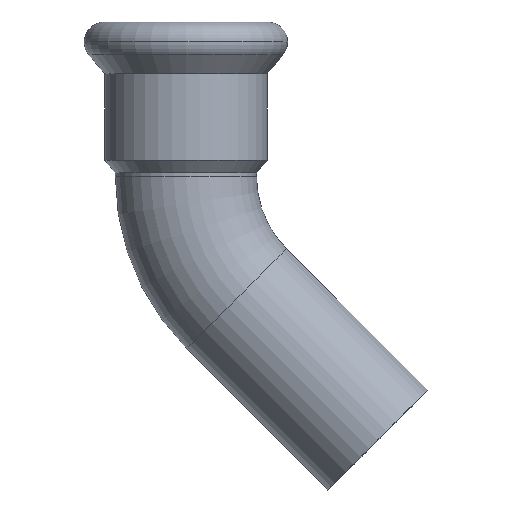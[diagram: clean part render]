
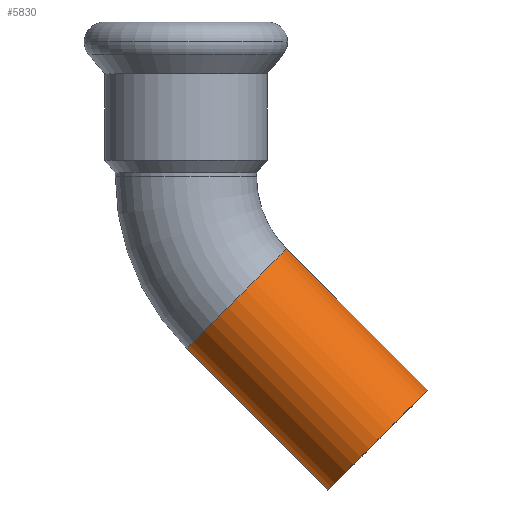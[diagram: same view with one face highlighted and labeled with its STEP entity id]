
A CAD part, top view. The second image highlights one B-rep face of the part: STEP entity #5830.
In plain terms, the highlighted cylindrical face has radius 11 mm (diameter 22 mm), a partial arc.
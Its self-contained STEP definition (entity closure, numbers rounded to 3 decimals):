
#2400=CARTESIAN_POINT('',(-289.38,-0.176,0.));
#2410=DIRECTION('',(-0.707,0.707,0.));
#2420=DIRECTION('',(-0.707,-0.707,0.));
#2430=AXIS2_PLACEMENT_3D('',#2400,#2410,#2420);
#2440=CIRCLE('',#2430,11.);
#2450=CARTESIAN_POINT('',(-297.159,-7.954,0.));
#2460=VERTEX_POINT('',#2450);
#2470=CARTESIAN_POINT('',(-281.602,7.602,
0.));
#2480=VERTEX_POINT('',#2470);
#2490=EDGE_CURVE('',#2460,#2480,#2440,.T.);
#4050=CARTESIAN_POINT('',(-311.383,21.826,0.));
#4060=DIRECTION('',(0.707,-0.707,0.));
#4070=DIRECTION('',(-0.707,-0.707,0.));
#4080=AXIS2_PLACEMENT_3D('',#4050,#4060,#4070);
#4090=CIRCLE('',#4080,11.);
#4120=CARTESIAN_POINT('',(-303.605,29.605,
0.));
#4130=VERTEX_POINT('',#4120);
#4390=CARTESIAN_POINT('',(-319.161,14.048,
0.));
#4400=VERTEX_POINT('',#4390);
#4480=CARTESIAN_POINT('',(-311.383,21.826,0.));
#4490=DIRECTION('',(-0.707,0.707,0.));
#4500=DIRECTION('',(-0.707,-0.707,0.));
#4510=AXIS2_PLACEMENT_3D('',#4480,#4490,#4500);
#4520=CYLINDRICAL_SURFACE('',#4510,11.);
#4530=CARTESIAN_POINT('',(-303.605,29.605,
0.));
#4540=DIRECTION('',(-0.707,0.707,0.));
#4550=VECTOR('',#4540,1.);
#4560=LINE('',#4530,#4550);
#4570=EDGE_CURVE('',#2480,#4130,#4560,.T.);
#4610=CARTESIAN_POINT('',(-319.161,14.048,0.));
#4620=DIRECTION('',(-0.707,0.707,0.));
#4630=VECTOR('',#4620,1.);
#4640=LINE('',#4610,#4630);
#4650=EDGE_CURVE('',#2460,#4400,#4640,.T.);
#5630=EDGE_CURVE('',#4130,#4400,#4090,.T.);
#5770=ORIENTED_EDGE('',*,*,#5630,.T.);
#5780=ORIENTED_EDGE('',*,*,#4570,.T.);
#5790=ORIENTED_EDGE('',*,*,#2490,.T.);
#5800=ORIENTED_EDGE('',*,*,#4650,.F.);
#5810=EDGE_LOOP('',(#5800,#5790,#5780,#5770));
#5820=FACE_OUTER_BOUND('',#5810,.T.);
#5830=ADVANCED_FACE('',(#5820),#4520,.T.);
